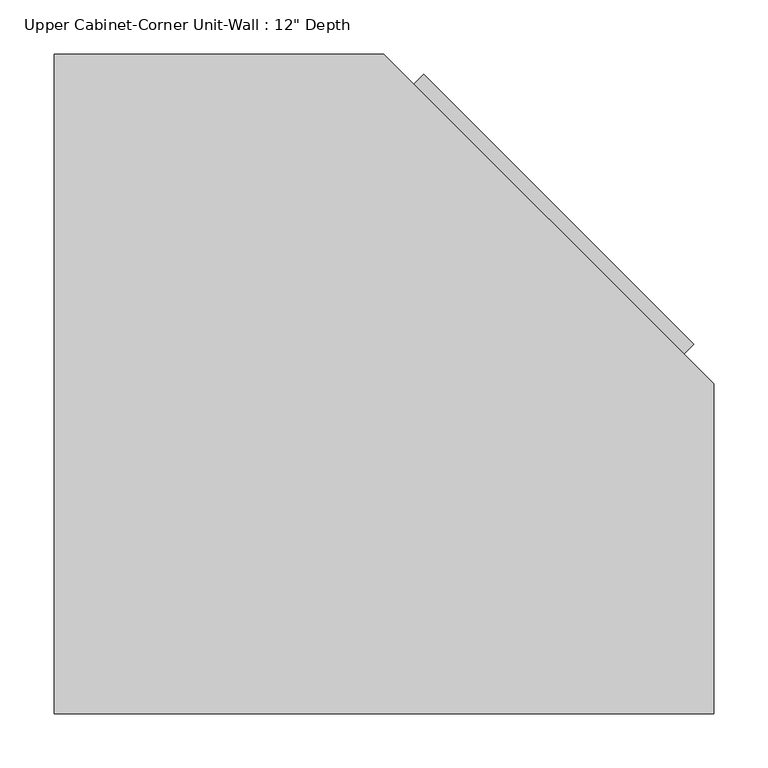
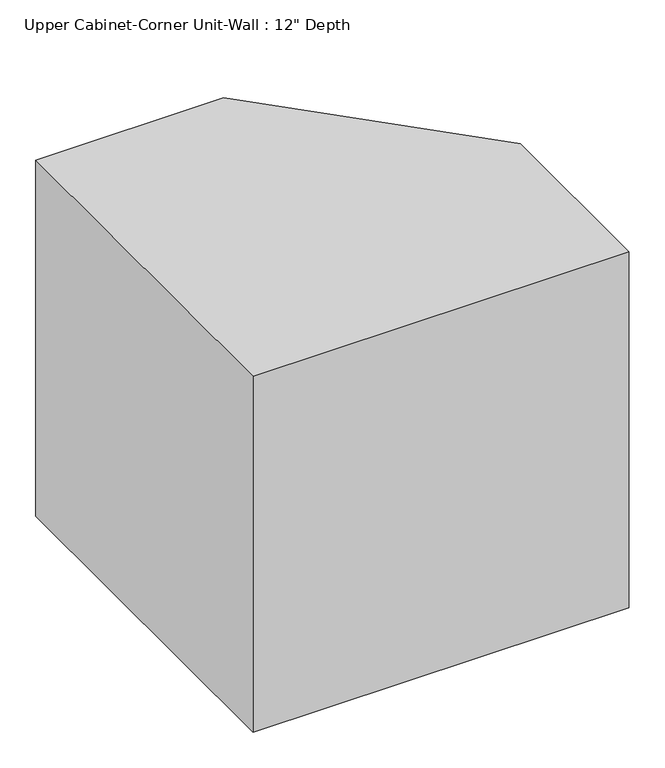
"""IFC4 building model written with IfcOpenShell, lengths in millimetres: furniture geometry."""

from ifc_helpers import new_model, si_unit, frame, origin, place, context, project, spatial, polyline, outline, extrude, faceted_brep, source, transform, mapped, element, save


def furniture_29d15f0f(model_context):
    return source(origin(), model_context, "Body", "SolidModel", [
        extrude(outline(polyline([(295.0625715, 724.2191036), (544.4402664, 474.8414087), (526.4797541, 456.8808964), (277.1020592, 706.2585913), (295.0625715, 724.2191036)])), frame((0.0, 0.0, 1581.15), z_axis=(0.0, 0.0, 1.0), x_axis=(1.0, 0.0, 0.0)), (0.0, 0.0, 1.0), 495.3),
        extrude(outline(polyline([(-27.3788372, 723.9), (250.4803944, 723.9), (544.1211628, 430.2592316), (544.1211628, 152.4), (-27.3788372, 152.4), (-27.3788372, 723.9)])), frame((0.0, 0.0, 1524.0), z_axis=(0.0, 0.0, 1.0), x_axis=(1.0, 0.0, 0.0)), (0.0, 0.0, 1.0), 25.4),
        faceted_brep([(-46.4288372, 742.95, 1524.0), (258.3711628, 742.95, 1524.0), (563.1711628, 438.15, 1524.0), (563.1711628, 133.35, 1524.0), (-46.4288372, 133.35, 1524.0), (250.4803944, 723.9, 1524.0), (-27.3788372, 723.9, 1524.0), (-27.3788372, 152.4, 1524.0), (544.1211628, 152.4, 1524.0), (544.1211628, 430.2592316, 1524.0), (-46.4288372, 742.95, 2133.6), (-46.4288372, 133.35, 2133.6), (563.1711628, 133.35, 2133.6), (563.1711628, 438.15, 2133.6), (258.3711628, 742.95, 2133.6), (250.4803944, 723.9, 2108.2), (-27.3788372, 723.9, 2108.2), (-27.3788372, 152.4, 2108.2), (544.1211628, 152.4, 2108.2), (544.1211628, 430.2592316, 2108.2), (535.4600102, 465.8611525, 2076.45), (286.0823153, 715.2388475, 2076.45), (286.0823153, 715.2388475, 1581.15), (535.4600102, 465.8611525, 1581.15), (272.6119312, 701.7684633, 2076.45), (521.9896261, 452.3907684, 2076.45), (521.9896261, 452.3907684, 1581.15), (272.6119312, 701.7684633, 1581.15)], [[[0, 1, 2, 3, 4], [5, 6, 7, 8, 9]], [[10, 11, 12, 13, 14]], [[1, 0, 10, 14]], [[6, 5, 15, 16]], [[7, 6, 16, 17]], [[8, 7, 17, 18]], [[9, 8, 18, 19]], [[3, 2, 13, 12]], [[4, 3, 12, 11]], [[0, 4, 11, 10]], [[16, 15, 19, 18, 17]], [[2, 1, 14, 13], [20, 21, 22, 23]], [[5, 9, 19, 15], [24, 25, 26, 27]], [[20, 25, 24, 21]], [[22, 27, 26, 23]], [[21, 24, 27, 22]], [[25, 20, 23, 26]]]),
    ])


if __name__ == "__main__":
    model = new_model("IFC4")
    model_context = context("Model", 3, world=origin())
    ifc_project = project(units=[si_unit("LENGTHUNIT", "METRE", prefix="MILLI")], contexts=[model_context])
    site = spatial("IfcSite", under=ifc_project)
    building = spatial("IfcBuilding", under=site)
    placement = place(None, origin())
    furniture_shape = furniture_29d15f0f(model_context)
    element("IfcFurniture", 1, ObjectType="Upper Cabinet-Corner Unit-Wall : 12\" Depth", at=placement, inside=building, context=model_context, shape_type="MappedRepresentation", body=[
        mapped(furniture_shape, transform((0.0, 0.0, 0.0), x_axis=(1.0, 0.0, 0.0), y_axis=(0.0, 1.0, 0.0), z_axis=(0.0, 0.0, 1.0))),
    ])
    save(model, "model.ifc")
